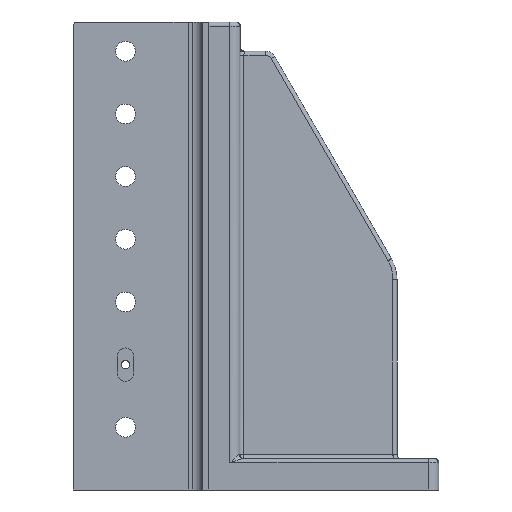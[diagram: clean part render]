
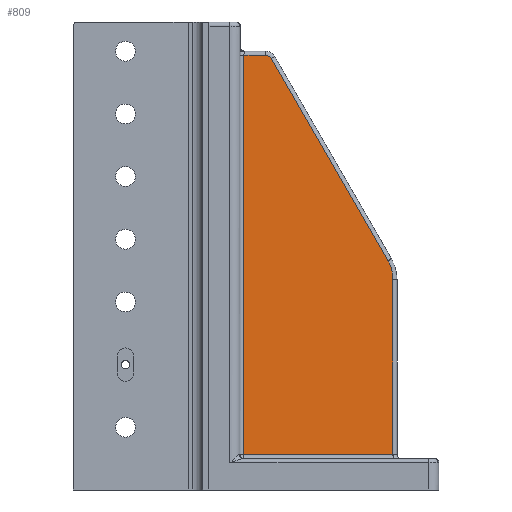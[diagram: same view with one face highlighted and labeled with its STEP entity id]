
A CAD part, left-side view. The second image highlights one B-rep face of the part: STEP entity #809.
In plain terms, the highlighted planar face has unit normal (-0.999, -0.035, 0).
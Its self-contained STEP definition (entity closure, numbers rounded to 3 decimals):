
#809=ADVANCED_FACE('Solid.1',(#1773),#1774,.F.);
#1773=FACE_OUTER_BOUND('',#3282,.T.);
#1774=PLANE('',#3283);
#3282=EDGE_LOOP('',(#7016,#7017,#7018,#7019,#7020,#7021,#7022));
#3283=AXIS2_PLACEMENT_3D('',#7023,#7024,#7025);
#7016=ORIENTED_EDGE('',*,*,#9025,.F.);
#7017=ORIENTED_EDGE('',*,*,#9026,.T.);
#7018=ORIENTED_EDGE('',*,*,#9027,.T.);
#7019=ORIENTED_EDGE('',*,*,#9028,.F.);
#7020=ORIENTED_EDGE('',*,*,#8970,.F.);
#7021=ORIENTED_EDGE('',*,*,#8966,.F.);
#7022=ORIENTED_EDGE('',*,*,#8962,.F.);
#7023=CARTESIAN_POINT('',(-20.,-55.,143.));
#7024=DIRECTION('',(0.999,0.035,0.));
#7025=DIRECTION('',(0.,0.0,-1.0));
#8962=EDGE_CURVE('',#10634,#10636,#10637,.T.);
#8966=EDGE_CURVE('',#10636,#10642,#10643,.T.);
#8970=EDGE_CURVE('',#10642,#10648,#10649,.T.);
#9025=EDGE_CURVE('',#10726,#10634,#10727,.F.);
#9026=EDGE_CURVE('',#10726,#10728,#10729,.T.);
#9027=EDGE_CURVE('',#10728,#10730,#10731,.F.);
#9028=EDGE_CURVE('',#10648,#10730,#10732,.T.);
#10634=VERTEX_POINT('',#12958);
#10636=VERTEX_POINT('',#12960);
#10637=B_SPLINE_CURVE_WITH_KNOTS('',5,(#12961,#12962,#12963,#12964,#12965,#12966),.UNSPECIFIED.,.F.,.F.,(6,6),(15.269,21.377),.UNSPECIFIED.);
#10642=VERTEX_POINT('',#12981);
#10643=B_SPLINE_CURVE_WITH_KNOTS('',1,(#12982,#12983),.UNSPECIFIED.,.F.,.F.,(2,2),(-51.236,60.535),.UNSPECIFIED.);
#10648=VERTEX_POINT('',#12989);
#10649=B_SPLINE_CURVE_WITH_KNOTS('',4,(#12990,#12991,#12992,#12993,#12994),.UNSPECIFIED.,.F.,.F.,(5,5),(77.511,91.601),.UNSPECIFIED.);
#10726=VERTEX_POINT('',#13201);
#10727=LINE('',#13202,#13203);
#10728=VERTEX_POINT('',#13204);
#10729=LINE('',#13205,#13206);
#10730=VERTEX_POINT('',#13207);
#10731=LINE('',#13208,#13209);
#10732=LINE('',#13210,#13211);
#12958=CARTESIAN_POINT('',(-19.575,-67.183,239.));
#12960=CARTESIAN_POINT('',(-19.484,-69.781,237.5));
#12961=CARTESIAN_POINT('',(-19.575,-67.183,239.));
#12962=CARTESIAN_POINT('',(-19.553,-67.811,239.));
#12963=CARTESIAN_POINT('',(-19.531,-68.44,238.836));
#12964=CARTESIAN_POINT('',(-19.511,-69.01,238.506));
#12965=CARTESIAN_POINT('',(-19.495,-69.467,238.045));
#12966=CARTESIAN_POINT('',(-19.484,-69.781,237.5));
#12981=CARTESIAN_POINT('',(-17.533,-125.658,140.718));
#12982=CARTESIAN_POINT('',(-19.484,-69.781,237.5));
#12983=CARTESIAN_POINT('',(-17.533,-125.658,140.718));
#12989=CARTESIAN_POINT('',(-17.448,-128.07,131.718));
#12990=CARTESIAN_POINT('',(-17.533,-125.658,140.718));
#12991=CARTESIAN_POINT('',(-17.491,-126.836,138.678));
#12992=CARTESIAN_POINT('',(-17.463,-127.658,136.431));
#12993=CARTESIAN_POINT('',(-17.448,-128.07,134.075));
#12994=CARTESIAN_POINT('',(-17.448,-128.07,131.718));
#13201=CARTESIAN_POINT('',(-19.942,-56.656,239.));
#13202=CARTESIAN_POINT('',(-18.681,-92.771,239.));
#13203=VECTOR('',#15728,1.0);
#13204=CARTESIAN_POINT('',(-19.942,-56.656,48.));
#13205=CARTESIAN_POINT('',(-19.942,-56.656,143.));
#13206=VECTOR('',#15729,1.0);
#13207=CARTESIAN_POINT('',(-17.448,-128.07,48.));
#13208=CARTESIAN_POINT('',(-18.681,-92.771,48.));
#13209=VECTOR('',#15730,1.0);
#13210=CARTESIAN_POINT('',(-17.448,-128.07,143.));
#13211=VECTOR('',#15731,1.0);
#15728=DIRECTION('',(-0.035,0.999,0.0));
#15729=DIRECTION('',(0.0,0.0,-1.0));
#15730=DIRECTION('',(-0.035,0.999,0.0));
#15731=DIRECTION('',(0.0,0.0,-1.0));
